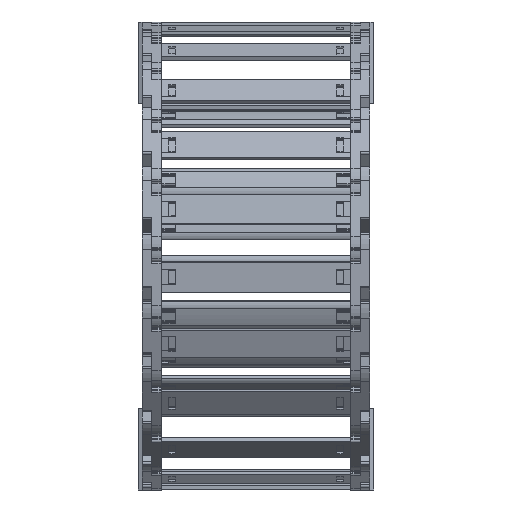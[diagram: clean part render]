
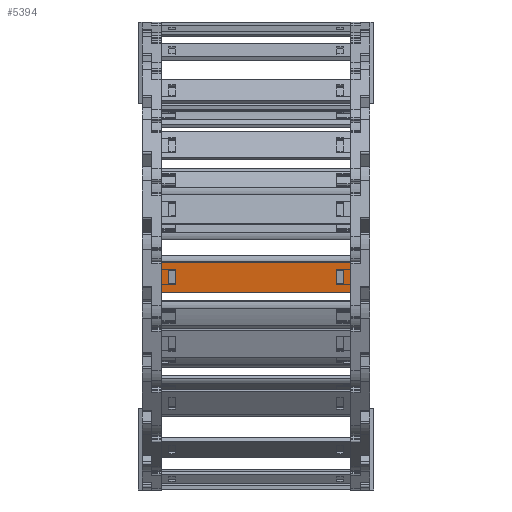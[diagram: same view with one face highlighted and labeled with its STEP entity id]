
A CAD part, left-side view. The second image highlights one B-rep face of the part: STEP entity #5394.
In plain terms, the highlighted planar face has unit normal (-0.996, 0, -0.087) as drawn and (0, 1, 0) by its records, which use the part's own axes.
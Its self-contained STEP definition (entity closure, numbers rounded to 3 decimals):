
#4814=DIRECTION('',(0.,0.,1.));
#4815=VECTOR('',#4814,15.8);
#4816=CARTESIAN_POINT('',(85.74,1.5,-7.9));
#4817=LINE('',#4816,#4815);
#4818=DIRECTION('',(-1.,0.,0.));
#4819=VECTOR('',#4818,100.5);
#4820=CARTESIAN_POINT('',(85.74,1.5,7.9));
#4821=LINE('',#4820,#4819);
#4822=DIRECTION('',(0.,0.,-1.));
#4823=VECTOR('',#4822,15.8);
#4824=CARTESIAN_POINT('',(-14.76,1.5,7.9));
#4825=LINE('',#4824,#4823);
#4826=DIRECTION('',(1.,0.,0.));
#4827=VECTOR('',#4826,3.648);
#4828=CARTESIAN_POINT('',(78.122,1.5,4.075));
#4829=LINE('',#4828,#4827);
#4830=DIRECTION('',(0.,0.,-1.));
#4831=VECTOR('',#4830,8.15);
#4832=CARTESIAN_POINT('',(81.77,1.5,4.075));
#4833=LINE('',#4832,#4831);
#4834=DIRECTION('',(-1.,0.,0.));
#4835=VECTOR('',#4834,3.648);
#4836=CARTESIAN_POINT('',(81.77,1.5,-4.075));
#4837=LINE('',#4836,#4835);
#4838=DIRECTION('',(0.,0.,-1.));
#4839=VECTOR('',#4838,8.15);
#4840=CARTESIAN_POINT('',(-7.142,1.5,4.075));
#4841=LINE('',#4840,#4839);
#4842=DIRECTION('',(-1.,0.,0.));
#4843=VECTOR('',#4842,3.648);
#4844=CARTESIAN_POINT('',(-7.142,1.5,-4.075));
#4845=LINE('',#4844,#4843);
#4846=DIRECTION('',(0.,0.,1.));
#4847=VECTOR('',#4846,8.15);
#4848=CARTESIAN_POINT('',(-10.79,1.5,-4.075));
#4849=LINE('',#4848,#4847);
#4850=DIRECTION('',(1.,0.,0.));
#4851=VECTOR('',#4850,3.648);
#4852=CARTESIAN_POINT('',(-10.79,1.5,4.075));
#4853=LINE('',#4852,#4851);
#4858=DIRECTION('',(-1.,0.,0.));
#4859=VECTOR('',#4858,100.5);
#4860=CARTESIAN_POINT('',(85.74,1.5,-7.9));
#4861=LINE('',#4860,#4859);
#4979=DIRECTION('',(0.,0.,-1.));
#4980=VECTOR('',#4979,8.15);
#4981=CARTESIAN_POINT('',(78.122,1.5,4.075));
#4982=LINE('',#4981,#4980);
#5164=CARTESIAN_POINT('',(81.77,1.5,4.075));
#5165=VERTEX_POINT('',#5164);
#5166=CARTESIAN_POINT('',(78.122,1.5,4.075));
#5167=VERTEX_POINT('',#5166);
#5208=CARTESIAN_POINT('',(78.122,1.5,-4.075));
#5209=VERTEX_POINT('',#5208);
#5210=CARTESIAN_POINT('',(81.77,1.5,-4.075));
#5211=VERTEX_POINT('',#5210);
#5212=CARTESIAN_POINT('',(85.74,1.5,7.9));
#5214=VERTEX_POINT('',#5212);
#5216=CARTESIAN_POINT('',(85.74,1.5,-7.9));
#5217=VERTEX_POINT('',#5216);
#5240=CARTESIAN_POINT('',(-7.142,1.5,4.075));
#5241=CARTESIAN_POINT('',(-7.142,1.5,-4.075));
#5242=VERTEX_POINT('',#5240);
#5243=VERTEX_POINT('',#5241);
#5244=CARTESIAN_POINT('',(-10.79,1.5,-4.075));
#5245=VERTEX_POINT('',#5244);
#5246=CARTESIAN_POINT('',(-10.79,1.5,4.075));
#5247=VERTEX_POINT('',#5246);
#5248=CARTESIAN_POINT('',(-14.76,1.5,7.9));
#5249=VERTEX_POINT('',#5248);
#5252=CARTESIAN_POINT('',(-14.76,1.5,-7.9));
#5253=VERTEX_POINT('',#5252);
#5363=CARTESIAN_POINT('',(117.48,1.5,10.061));
#5364=DIRECTION('',(0.,-1.,0.));
#5365=DIRECTION('',(0.,0.,-1.));
#5366=AXIS2_PLACEMENT_3D('',#5363,#5364,#5365);
#5367=PLANE('',#5366);
#5368=ORIENTED_EDGE('',*,*,#5302,.T.);
#5369=ORIENTED_EDGE('',*,*,#5328,.T.);
#5370=ORIENTED_EDGE('',*,*,#5341,.T.);
#5372=ORIENTED_EDGE('',*,*,#5371,.F.);
#5373=EDGE_LOOP('',(#5368,#5369,#5370,#5372));
#5374=FACE_OUTER_BOUND('',#5373,.F.);
#5376=ORIENTED_EDGE('',*,*,#5375,.F.);
#5377=ORIENTED_EDGE('',*,*,#5265,.T.);
#5379=ORIENTED_EDGE('',*,*,#5378,.T.);
#5381=ORIENTED_EDGE('',*,*,#5380,.T.);
#5382=EDGE_LOOP('',(#5376,#5377,#5379,#5381));
#5383=FACE_BOUND('',#5382,.F.);
#5385=ORIENTED_EDGE('',*,*,#5384,.T.);
#5387=ORIENTED_EDGE('',*,*,#5386,.T.);
#5389=ORIENTED_EDGE('',*,*,#5388,.T.);
#5391=ORIENTED_EDGE('',*,*,#5390,.T.);
#5392=EDGE_LOOP('',(#5385,#5387,#5389,#5391));
#5393=FACE_BOUND('',#5392,.F.);
#5394=ADVANCED_FACE('',(#5374,#5383,#5393),#5367,.F.);
#5265=EDGE_CURVE('',#5167,#5165,#4829,.T.);
#5302=EDGE_CURVE('',#5217,#5214,#4817,.T.);
#5328=EDGE_CURVE('',#5214,#5249,#4821,.T.);
#5341=EDGE_CURVE('',#5249,#5253,#4825,.T.);
#5371=EDGE_CURVE('',#5217,#5253,#4861,.T.);
#5375=EDGE_CURVE('',#5167,#5209,#4982,.T.);
#5378=EDGE_CURVE('',#5165,#5211,#4833,.T.);
#5380=EDGE_CURVE('',#5211,#5209,#4837,.T.);
#5384=EDGE_CURVE('',#5242,#5243,#4841,.T.);
#5386=EDGE_CURVE('',#5243,#5245,#4845,.T.);
#5388=EDGE_CURVE('',#5245,#5247,#4849,.T.);
#5390=EDGE_CURVE('',#5247,#5242,#4853,.T.);
